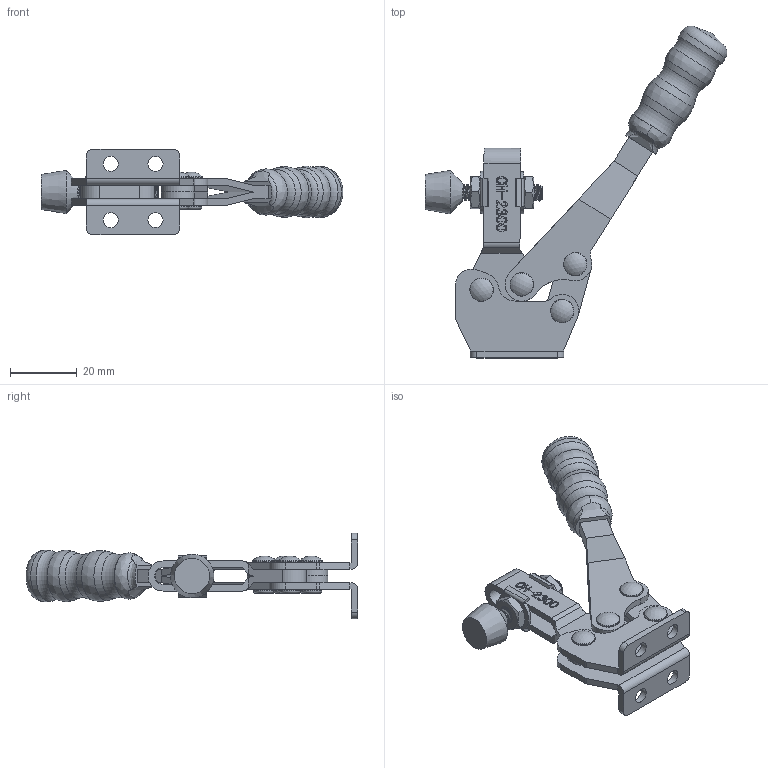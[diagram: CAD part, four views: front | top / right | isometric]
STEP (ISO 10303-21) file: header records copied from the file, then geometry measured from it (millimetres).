
FILE_DESCRIPTION(/* description */ ('STEP AP203'),/* implementation_level */ '2;1');
FILE_NAME(/* name */ 'E:\STRONA\Horizontal toggle clamp\CH-2300\CH-2300_OTWARTY.stp',/* time_stamp */ '2019-01-14T10:16:49+01:00',/* author */ ('Admin'),/* organization */ ('Î¢ÈíÖÐ¹ú'),/* preprocessor_version */ 'ST-DEVELOPER v17.2',/* originating_system */ 'Autodesk Inventor 2019',/* authorisation */ '');
FILE_SCHEMA (('AUTOMOTIVE_DESIGN { 1 0 10303 214 3 1 1 }'));
Length unit declared in the file: millimetre
Products named in the file (10): CH-2300_OTWARTY; CH-2300-01___; 10138-02___; CH-FC-10138___; CH-2300-04___; CH-2300-06___; CH-2300-02___; CH-2300-03___; FW100___; CH-2300-05___
Assembly tree (14 placements, depth 2):
  CH-2300_OTWARTY
    CH-2300-01___
    10138-02___  x2
    CH-2300-05___  x4
    CH-FC-10138___
    CH-2300-04___
    CH-2300-06___
    CH-2300-02___
    CH-2300-03___
    FW100___  x2
Bounding box: 90.35 x 99.3 x 25.6 mm (x, y, z)
Volume: 17572.2 mm3; surface area: 17580.5 mm2
Topology: 16 solids, 17 shells, 614 faces, 1731 edges, 1180 vertices
Faces by surface type: plane 251, bspline 200, cylinder 118, torus 24, cone 17, sphere 4
Full cylindrical faces by diameter (mm): 1.6 x1, 2.4 x1, 2.9 x4, 3.8 x4, 3.9 x4, 3.98 x4, 4 x10, 4.5 x4, 4.8 x19, 4.9 x2, 6.4 x4, 7 x4, 9.526 x1, 15.323 x1
Entity records: 35127 total; most frequent: CARTESIAN_POINT 21869, ORIENTED_EDGE 3054, DIRECTION 2039, EDGE_CURVE 1527, VERTEX_POINT 1037, LINE 805, VECTOR 805, AXIS2_PLACEMENT_3D 617
